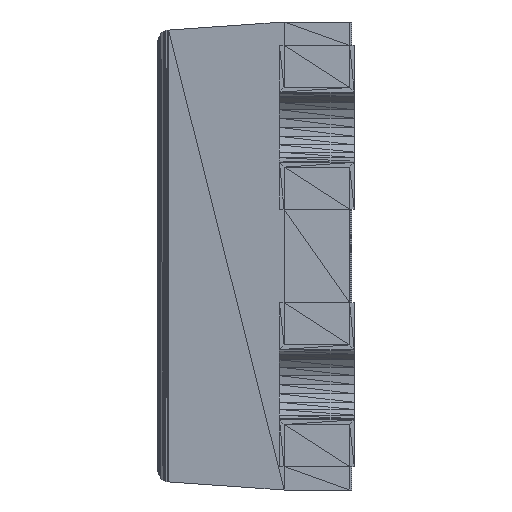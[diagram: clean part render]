
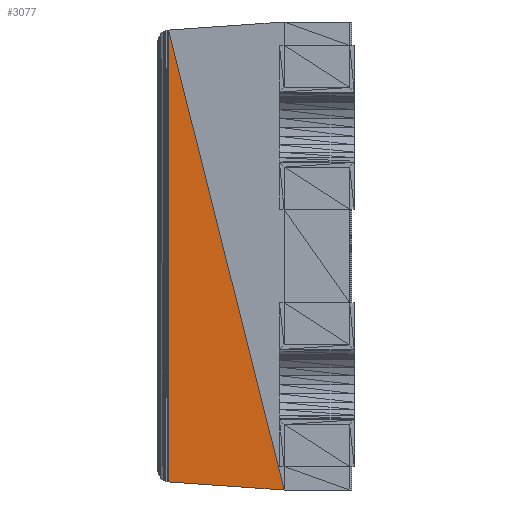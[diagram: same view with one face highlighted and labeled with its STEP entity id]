
A CAD part, left-side view. The second image highlights one B-rep face of the part: STEP entity #3077.
In plain terms, the highlighted planar face has unit normal (-0.998, 0.069, 0).
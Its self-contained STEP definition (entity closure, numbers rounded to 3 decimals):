
#3077 = ADVANCED_FACE('',(#3078),#3104,.T.);
#3078 = FACE_BOUND('',#3079,.T.);
#3079 = EDGE_LOOP('',(#3080,#3090,#3098));
#3080 = ORIENTED_EDGE('',*,*,#3081,.T.);
#3081 = EDGE_CURVE('',#3082,#3084,#3086,.T.);
#3082 = VERTEX_POINT('',#3083);
#3083 = CARTESIAN_POINT('',(-0.531,0.773,
    0.965));
#3084 = VERTEX_POINT('',#3085);
#3085 = CARTESIAN_POINT('',(-0.531,0.773,
    -0.965));
#3086 = LINE('',#3087,#3088);
#3087 = CARTESIAN_POINT('',(-0.531,0.773,
    0.965));
#3088 = VECTOR('',#3089,1.);
#3089 = DIRECTION('',(0.,0.,-1.));
#3090 = ORIENTED_EDGE('',*,*,#3091,.F.);
#3091 = EDGE_CURVE('',#3092,#3084,#3094,.T.);
#3092 = VERTEX_POINT('',#3093);
#3093 = CARTESIAN_POINT('',(-0.565,0.28,
    -1.));
#3094 = LINE('',#3095,#3096);
#3095 = CARTESIAN_POINT('',(-0.565,0.28,
    -1.));
#3096 = VECTOR('',#3097,1.);
#3097 = DIRECTION('',(0.069,0.995,
    0.07));
#3098 = ORIENTED_EDGE('',*,*,#3099,.T.);
#3099 = EDGE_CURVE('',#3092,#3082,#3100,.T.);
#3100 = LINE('',#3101,#3102);
#3101 = CARTESIAN_POINT('',(-0.565,0.28,
    -1.));
#3102 = VECTOR('',#3103,1.);
#3103 = DIRECTION('',(0.017,0.244,0.97)
  );
#3104 = PLANE('',#3105);
#3105 = AXIS2_PLACEMENT_3D('',#3106,#3107,#3108);
#3106 = CARTESIAN_POINT('',(-0.54,0.634,
    -0.117));
#3107 = DIRECTION('',(-0.998,0.069,
    0.));
#3108 = DIRECTION('',(-0.069,-0.998,0.));
